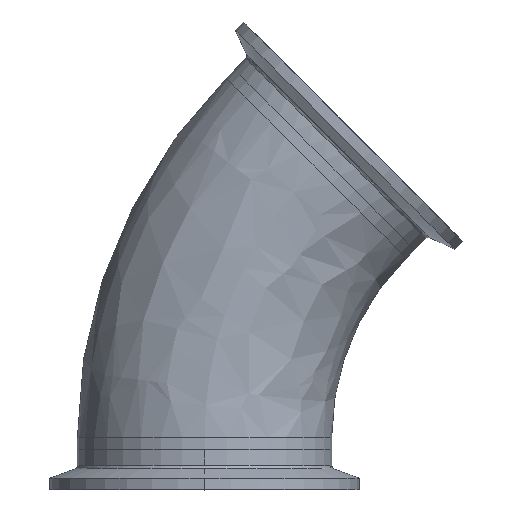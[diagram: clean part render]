
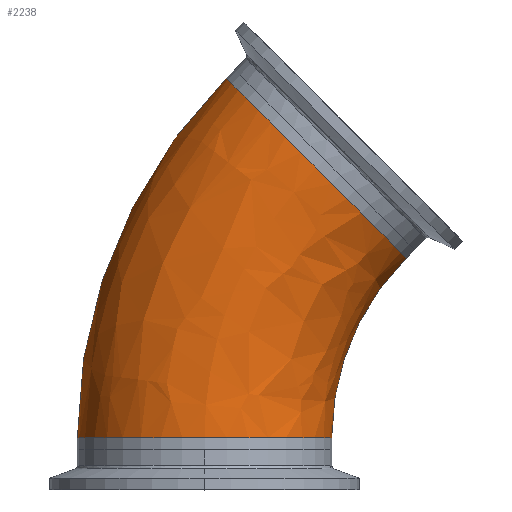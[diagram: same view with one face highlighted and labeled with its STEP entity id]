
A CAD part, top view. The second image highlights one B-rep face of the part: STEP entity #2238.
In plain terms, the highlighted free-form (B-spline) face has degree [3, 3] with [4, 4] control points.
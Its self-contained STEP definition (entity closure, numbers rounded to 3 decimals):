
#5 = FACE_OUTER_BOUND ( 'NONE', #421, .T. ) ;
#7 = DIRECTION ( 'NONE',  ( -1., 0., 0. ) ) ;
#37 = AXIS2_PLACEMENT_3D ( 'NONE', #2933, #1321, #3203 ) ;
#65 = DIRECTION ( 'NONE',  ( 0., 1., 0. ) ) ;
#222 = DIRECTION ( 'NONE',  ( -0.707, 0.707, 0. ) ) ;
#237 = CARTESIAN_POINT ( 'NONE',  ( 31.75, 2.967, 63.5 ) ) ;
#241 = CARTESIAN_POINT ( 'NONE',  ( 31.75, 2.967, 0. ) ) ;
#347 = EDGE_CURVE ( 'NONE', #1681, #1833, #2396, .T. ) ;
#421 = EDGE_LOOP ( 'NONE', ( #2882, #2526, #2514, #1351 ) ) ;
#501 = CARTESIAN_POINT ( 'NONE',  ( 38.276, 35.775, 63.5 ) ) ;
#755 = CARTESIAN_POINT ( 'NONE',  ( 31.75, 2.967, 0. ) ) ;
#816 = AXIS2_PLACEMENT_3D ( 'NONE', #2937, #65, #7 ) ;
#974 = VERTEX_POINT ( 'NONE', #241 ) ;
#1003 = CARTESIAN_POINT ( 'NONE',  ( 38.276, 35.775, 0. ) ) ;
#1113 = AXIS2_PLACEMENT_3D ( 'NONE', #3379, #1787, #222 ) ;
#1134 = EDGE_CURVE ( 'NONE', #1681, #974, #1409, .T. ) ;
#1256 = CARTESIAN_POINT ( 'NONE',  ( 5.433, 92.734, 0. ) ) ;
#1321 = DIRECTION ( 'NONE',  ( 0., 0., -1. ) ) ;
#1351 = ORIENTED_EDGE ( 'NONE', *, *, #347, .F. ) ;
#1409 = CIRCLE ( 'NONE', #816, 31.75 ) ;
#1526 = CARTESIAN_POINT ( 'NONE',  ( -31.75, 37.086, 63.5 ) ) ;
#1635 = CIRCLE ( 'NONE', #37, 63.45 ) ;
#1658 = AXIS2_PLACEMENT_3D ( 'NONE', #2830, #3351, #2585 ) ;
#1681 = VERTEX_POINT ( 'NONE', #2034 ) ;
#1771 = CARTESIAN_POINT ( 'NONE',  ( 50.334, 47.833, 0. ) ) ;
#1787 = DIRECTION ( 'NONE',  ( -0.707, -0.707, 0. ) ) ;
#1804 = CARTESIAN_POINT ( 'NONE',  ( 5.433, 92.734, 63.5 ) ) ;
#1833 = VERTEX_POINT ( 'NONE', #2864 ) ;
#2034 = CARTESIAN_POINT ( 'NONE',  ( -31.75, 2.967, 0. ) ) ;
#2072 = CARTESIAN_POINT ( 'NONE',  ( -31.75, 2.967, 0. ) ) ;
#2081 = CARTESIAN_POINT ( 'NONE',  ( 31.75, 20.02, 63.5 ) ) ;
#2238 = ADVANCED_FACE ( 'NONE', ( #5 ), #2450, .T. ) ;
#2345 = CARTESIAN_POINT ( 'NONE',  ( -31.75, 37.086, 0. ) ) ;
#2358 = CARTESIAN_POINT ( 'NONE',  ( 50.334, 47.833, 63.5 ) ) ;
#2396 = CIRCLE ( 'NONE', #1658, 126.95 ) ;
#2450 =( BOUNDED_SURFACE ( )  B_SPLINE_SURFACE ( 3, 3, ( 
 ( #2072, #2345, #2868, #1256 ),
 ( #3136, #1526, #3395, #1804 ),
 ( #237, #2081, #501, #2358 ),
 ( #755, #2624, #1003, #2877 ) ),
 .UNSPECIFIED., .F., .F., .T. ) 
 B_SPLINE_SURFACE_WITH_KNOTS ( ( 4, 4 ),
 ( 4, 4 ),
 ( 0., 1. ),
 ( 0., 1. ),
 .UNSPECIFIED. ) 
 GEOMETRIC_REPRESENTATION_ITEM ( )  RATIONAL_B_SPLINE_SURFACE ( (
 ( 1., 0.949, 0.949, 1.),
 ( 0.333, 0.316, 0.316, 0.333),
 ( 0.333, 0.316, 0.316, 0.333),
 ( 1., 0.949, 0.949, 1.) ) ) 
 REPRESENTATION_ITEM ( '' )  SURFACE ( )  );
#2514 = ORIENTED_EDGE ( 'NONE', *, *, #2707, .T. ) ;
#2526 = ORIENTED_EDGE ( 'NONE', *, *, #2943, .T. ) ;
#2585 = DIRECTION ( 'NONE',  ( -1., 0., 0. ) ) ;
#2624 = CARTESIAN_POINT ( 'NONE',  ( 31.75, 20.02, 0. ) ) ;
#2694 = CIRCLE ( 'NONE', #1113, 31.75 ) ;
#2707 = EDGE_CURVE ( 'NONE', #3113, #1833, #2694, .T. ) ;
#2830 = CARTESIAN_POINT ( 'NONE',  ( 95.2, 2.967, 0. ) ) ;
#2864 = CARTESIAN_POINT ( 'NONE',  ( 5.433, 92.734, 0. ) ) ;
#2868 = CARTESIAN_POINT ( 'NONE',  ( -18.693, 68.608, 0. ) ) ;
#2877 = CARTESIAN_POINT ( 'NONE',  ( 50.334, 47.833, 0. ) ) ;
#2882 = ORIENTED_EDGE ( 'NONE', *, *, #1134, .T. ) ;
#2933 = CARTESIAN_POINT ( 'NONE',  ( 95.2, 2.967, 0. ) ) ;
#2937 = CARTESIAN_POINT ( 'NONE',  ( 0., 2.967, 0. ) ) ;
#2943 = EDGE_CURVE ( 'NONE', #974, #3113, #1635, .T. ) ;
#3113 = VERTEX_POINT ( 'NONE', #1771 ) ;
#3136 = CARTESIAN_POINT ( 'NONE',  ( -31.75, 2.967, 63.5 ) ) ;
#3203 = DIRECTION ( 'NONE',  ( -1., 0., 0. ) ) ;
#3351 = DIRECTION ( 'NONE',  ( 0., 0., -1. ) ) ;
#3379 = CARTESIAN_POINT ( 'NONE',  ( 27.883, 70.283, 0. ) ) ;
#3395 = CARTESIAN_POINT ( 'NONE',  ( -18.693, 68.608, 63.5 ) ) ;
